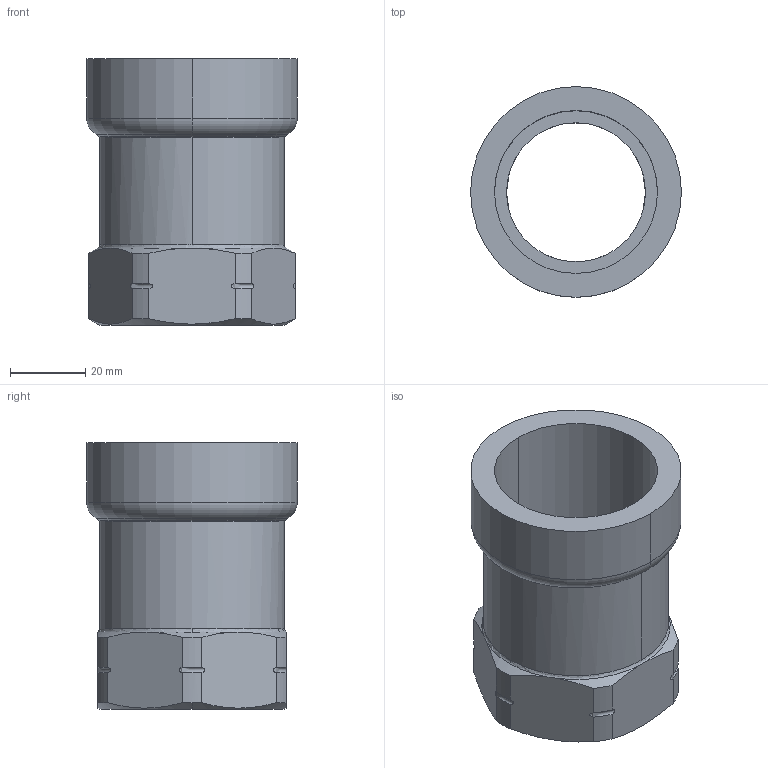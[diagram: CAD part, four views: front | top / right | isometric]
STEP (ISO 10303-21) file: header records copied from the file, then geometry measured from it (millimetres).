
FILE_DESCRIPTION(('Creo Elements/Direct Modeling STEP Export'),'2;1');
FILE_NAME('C9402_1-1-4.stp','2020-06-18T11:13:42',(''),(''),'PTC Creo Elements/Direct Modeling STEP processor for AP214 (Solid Model)','PTC Creo Elements/Direct Modeling 19.0C 15-Aug-2015 (C) Parametric Technology GmbH','');
FILE_SCHEMA(('AUTOMOTIVE_DESIGN { 1 0 10303 214 1 1 1 1 }'));
Length unit declared in the file: millimetre
Products named in the file (2): 9402_1-1-4
Assembly tree (1 placements, depth 2):
  9402_1-1-4
    9402_1-1-4
Bounding box: 56 x 56 x 70.81 mm (x, y, z)
Volume: 53082.6 mm3; surface area: 23343 mm2
Topology: 1 solids, 1 shells, 53 faces, 146 edges, 96 vertices
Faces by surface type: cylinder 18, cone 14, torus 12, plane 9
Entity records: 4162 total; most frequent: CARTESIAN_POINT 2870, ORIENTED_EDGE 292, DIRECTION 218, EDGE_CURVE 146, AXIS2_PLACEMENT_3D 96, VERTEX_POINT 96, EDGE_LOOP 56, FACE_OUTER_BOUND 53
